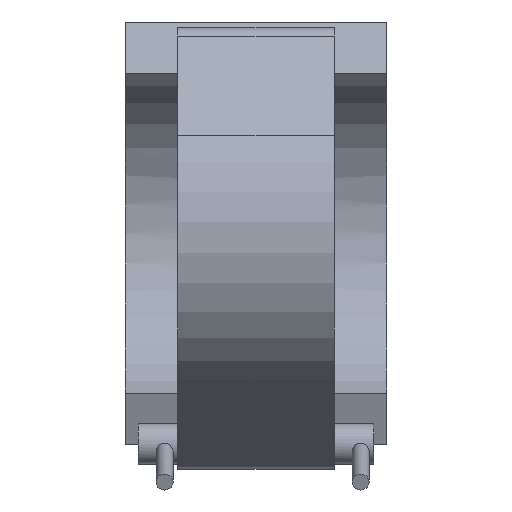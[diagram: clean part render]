
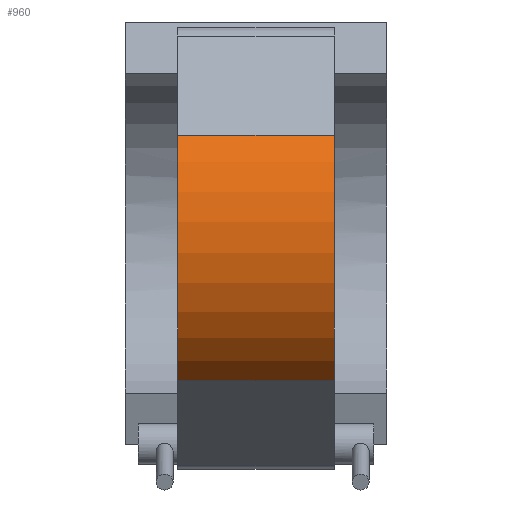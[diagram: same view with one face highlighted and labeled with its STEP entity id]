
A CAD part, front view. The second image highlights one B-rep face of the part: STEP entity #960.
In plain terms, the highlighted cylindrical face has radius 120.172 mm (diameter 240.345 mm), a partial arc.
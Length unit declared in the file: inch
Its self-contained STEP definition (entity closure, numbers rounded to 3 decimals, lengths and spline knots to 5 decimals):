
#138=FACE_OUTER_BOUND('',#215,.T.);
#215=EDGE_LOOP('',(#848,#849,#850,#851));
#275=LINE('',#2003,#336);
#276=LINE('',#2007,#337);
#336=VECTOR('',#1347,0.3937);
#337=VECTOR('',#1352,0.3937);
#391=CIRCLE('',#1082,4.7312);
#394=CIRCLE('',#1087,4.7312);
#477=VERTEX_POINT('',#1987);
#478=VERTEX_POINT('',#1989);
#483=VERTEX_POINT('',#2001);
#484=VERTEX_POINT('',#2005);
#601=EDGE_CURVE('',#477,#478,#391,.T.);
#608=EDGE_CURVE('',#477,#483,#275,.T.);
#609=EDGE_CURVE('',#484,#483,#394,.T.);
#610=EDGE_CURVE('',#478,#484,#276,.T.);
#848=ORIENTED_EDGE('',*,*,#608,.T.);
#849=ORIENTED_EDGE('',*,*,#609,.F.);
#850=ORIENTED_EDGE('',*,*,#610,.F.);
#851=ORIENTED_EDGE('',*,*,#601,.F.);
#906=CYLINDRICAL_SURFACE('',#1086,4.7312);
#960=ADVANCED_FACE('',(#138),#906,.T.);
#1082=AXIS2_PLACEMENT_3D('',#1990,#1335,#1336);
#1086=AXIS2_PLACEMENT_3D('',#2004,#1348,#1349);
#1087=AXIS2_PLACEMENT_3D('',#2006,#1350,#1351);
#1335=DIRECTION('center_axis',(-1.,0.,0.));
#1336=DIRECTION('ref_axis',(0.,-0.836,0.549));
#1347=DIRECTION('',(1.,0.,0.));
#1348=DIRECTION('center_axis',(1.,0.,0.));
#1349=DIRECTION('ref_axis',(0.,-0.836,0.549));
#1350=DIRECTION('center_axis',(1.,0.,0.));
#1351=DIRECTION('ref_axis',(0.,-0.836,0.549));
#1352=DIRECTION('',(1.,0.,0.));
#1987=CARTESIAN_POINT('',(-5.544,-2.66733,-3.90763));
#1989=CARTESIAN_POINT('',(-5.544,-3.953,2.59963));
#1990=CARTESIAN_POINT('Origin',(-5.544,0.,0.));
#2001=CARTESIAN_POINT('',(-1.386,-2.66733,-3.90763));
#2003=CARTESIAN_POINT('',(-3.465,-2.66733,-3.90763));
#2004=CARTESIAN_POINT('Origin',(-3.465,0.,0.));
#2005=CARTESIAN_POINT('',(-1.386,-3.953,2.59963));
#2006=CARTESIAN_POINT('Origin',(-1.386,0.,0.));
#2007=CARTESIAN_POINT('',(-3.465,-3.953,2.59963));
